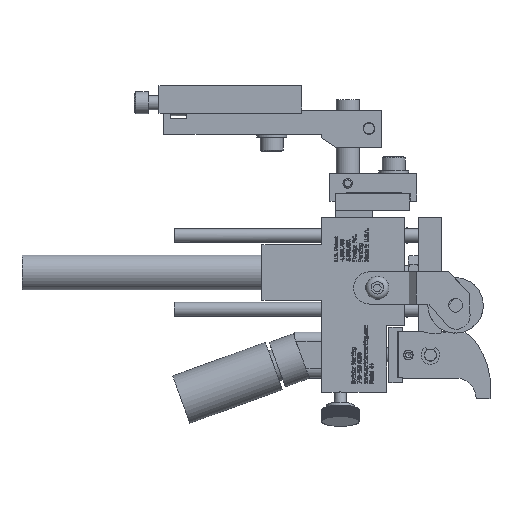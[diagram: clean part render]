
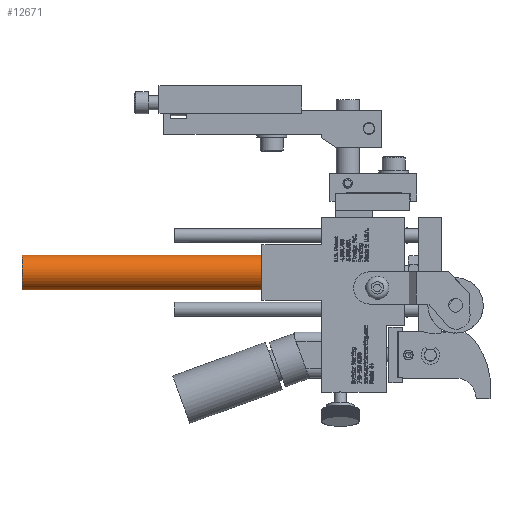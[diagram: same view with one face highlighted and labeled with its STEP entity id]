
A CAD part, top view. The second image highlights one B-rep face of the part: STEP entity #12671.
In plain terms, the highlighted cylindrical face has radius 5.969 mm (diameter 11.938 mm), a full revolution.
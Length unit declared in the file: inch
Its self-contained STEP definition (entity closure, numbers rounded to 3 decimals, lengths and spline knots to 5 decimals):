
#12644=CARTESIAN_POINT('',(-1.4995,0.8125,0.375));
#12645=DIRECTION('',(-1.0,0.,0.));
#12646=DIRECTION('',(0.0,0.0,-1.0));
#12647=AXIS2_PLACEMENT_3D('',#12644,#12645,#12646);
#12648=CYLINDRICAL_SURFACE('',#12647,0.235);
#12649=CARTESIAN_POINT('',(-4.7495,0.8125,0.61));
#12650=VERTEX_POINT('',#12649);
#12651=CARTESIAN_POINT('',(-4.7495,0.8125,0.375));
#12652=DIRECTION('',(1.0,0.0,0.0));
#12653=DIRECTION('',(0.0,0.0,-1.0));
#12654=AXIS2_PLACEMENT_3D('',#12651,#12652,#12653);
#12655=CIRCLE('',#12654,0.235);
#12656=EDGE_CURVE('',#12650,#12650,#12655,.T.);
#12657=ORIENTED_EDGE('',*,*,#12656,.T.);
#12658=EDGE_LOOP('',(#12657));
#12659=FACE_OUTER_BOUND('',#12658,.T.);
#12660=CARTESIAN_POINT('',(-1.4995,0.8125,0.61));
#12661=VERTEX_POINT('',#12660);
#12662=CARTESIAN_POINT('',(-1.4995,0.8125,0.375));
#12663=DIRECTION('',(1.0,0.0,0.0));
#12664=DIRECTION('',(0.0,0.0,-1.0));
#12665=AXIS2_PLACEMENT_3D('',#12662,#12663,#12664);
#12666=CIRCLE('',#12665,0.235);
#12667=EDGE_CURVE('',#12661,#12661,#12666,.T.);
#12668=ORIENTED_EDGE('',*,*,#12667,.F.);
#12669=EDGE_LOOP('',(#12668));
#12670=FACE_BOUND('',#12669,.T.);
#12671=ADVANCED_FACE('',(#12659,#12670),#12648,.T.);
